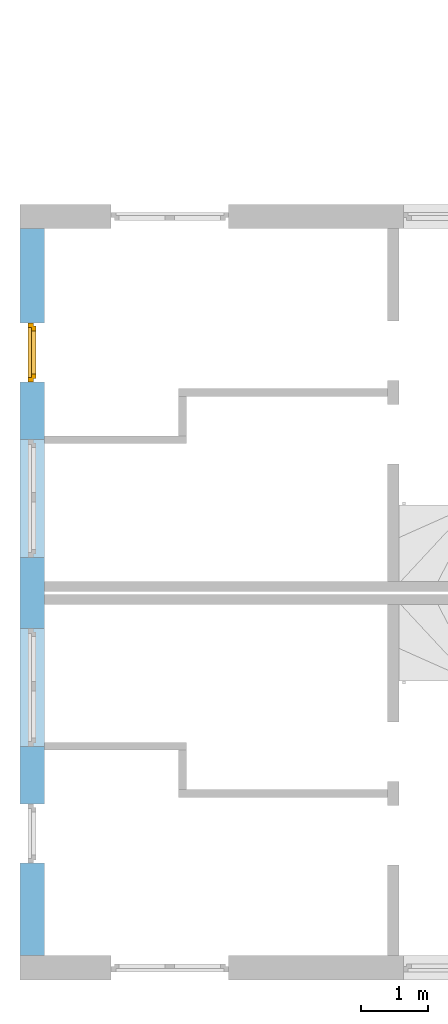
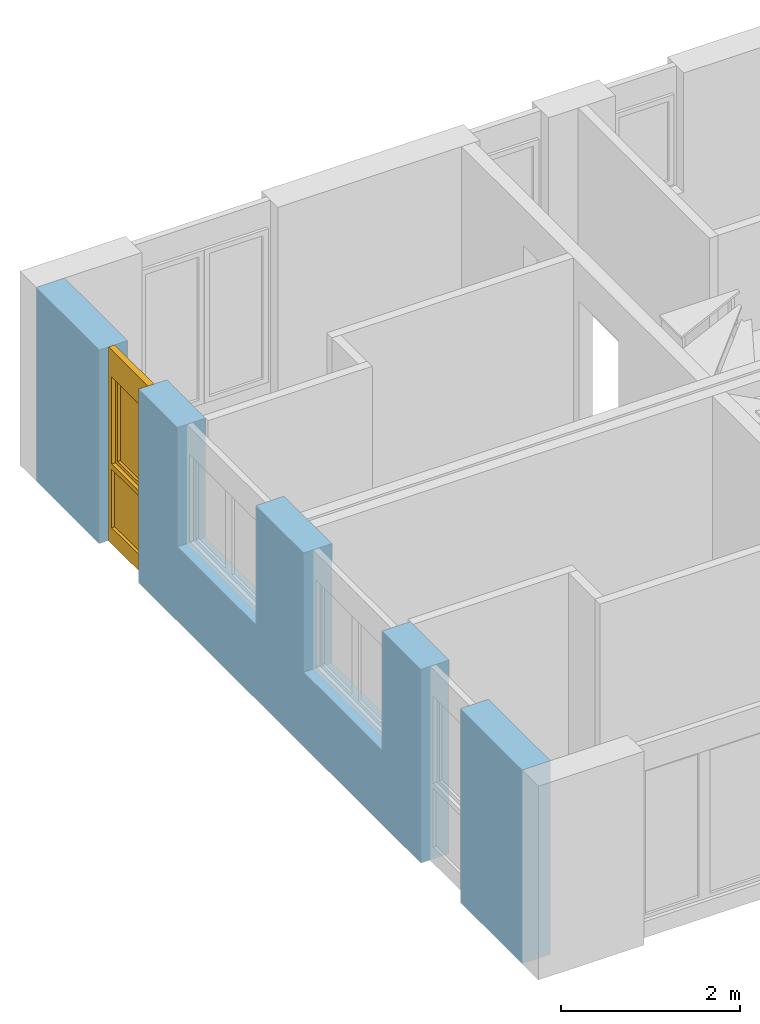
# One storey, part 9 of 42: 1 window, 4 openings, plus 1 element that does not belong to this part.
"""IFC2X3 building model written with IfcOpenShell, lengths in millimetres."""

from ifc_helpers import new_model, entity, si_unit, converted_unit, frame, frame_2d, origin, origin_with_axes, place, context, subcontext, project, spatial, rectangle, extrude, faceted_brep, material, layer, layer_set, layer_usage, type_object, element, fill, save


model = new_model("IFC2X3")

# Units and contexts
model_context = context("Model", 3, precision=1e-05, world=origin())
body_context = subcontext(model_context, "Body", "Model", "MODEL_VIEW")
ifc_project = project(units=[si_unit("LENGTHUNIT", "METRE", prefix="MILLI"), converted_unit("PLANEANGLEUNIT", "DEGREE", entity("IfcPlaneAngleMeasure", 0.0174532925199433), si_unit("PLANEANGLEUNIT", "RADIAN"), dimensions=[0, 0, 0, 0, 0, 0, 0]), si_unit("AREAUNIT", "SQUARE_METRE"), si_unit("VOLUMEUNIT", "CUBIC_METRE")], contexts=[model_context])

# Building, storey
building_placement = place(None, origin())
building = spatial("IfcBuilding", under=ifc_project, at=building_placement, Name="Gebäude", CompositionType="ELEMENT")
storey_placement = place(building_placement, frame((0.0, 0.0, 2730.0), z_axis=(0.0, 0.0, 1.0), x_axis=(1.0, 0.0, 0.0)))
storey = spatial("IfcBuildingStorey", under=building, at=storey_placement, Name="OG.- Grundriss", CompositionType="ELEMENT", Elevation=2730.0)

# Wall, openings, window
ifc_material_1 = material(Name="Poroton")
ifc_layer = layer(ifc_material_1, 365.0)
ifc_layer_set = layer_set([ifc_layer])
ifc_layer_usage = layer_usage(ifc_layer_set, "AXIS2", "POSITIVE", 0.0)
wall_placement = place(storey_placement, frame((130992.7928067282, 136524.8877324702, 0.0), z_axis=(0.0, 0.0, 1.0), x_axis=(1.336877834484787e-14, -1.0, 0.0)))
wall = element("IfcWallStandardCase", 1, at=wall_placement, inside=storey, material=ifc_layer_usage, Name="<Unnamed Element>", context=body_context, shape_type="SweptSolid", body=[
    extrude(rectangle(XDim=10884.99999999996, YDim=365.0, at=frame_2d((5442.499999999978, 182.5), x_axis=(1.0, 0.0))), origin_with_axes(), (0.0, 0.0, 1.0), 2650.0),
])
opening_1_placement = place(wall_placement, frame((5989.999999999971, 1.455191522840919e-13, 1020.0), z_axis=(0.0, 1.0, 0.0), x_axis=(0.0, 0.0, 1.0)))
element("IfcOpeningElement", 2, at=opening_1_placement, cuts=wall, Name="Fensteröffnung", ObjectType="Opening", context=body_context, shape_type="SweptSolid", body=[
    extrude(rectangle(XDim=1630.0, YDim=1760.0, at=frame_2d((815.0, 880.0), x_axis=(1.0, 0.0))), origin_with_axes(), (0.0, 0.0, 1.0), 365.0000000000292),
])
opening_2_placement = place(wall_placement, frame((8614.99999999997, -8.949427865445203e-12, 0.0), z_axis=(0.0, 1.0, 0.0), x_axis=(0.0, 0.0, 1.0)))
element("IfcOpeningElement", 3, at=opening_2_placement, cuts=wall, Name="Fensteröffnung", ObjectType="Opening", context=body_context, shape_type="SweptSolid", body=[
    extrude(rectangle(XDim=2650.0, YDim=885.0, at=frame_2d((1325.0, 442.5), x_axis=(1.0, 0.0))), origin_with_axes(), (0.0, 0.0, 1.0), 364.9999999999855),
])
opening_3_placement = place(wall_placement, frame((3159.987487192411, -1.688003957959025e-11, 1020.0), z_axis=(0.0, 1.0, 0.0), x_axis=(0.0, 0.0, 1.0)))
element("IfcOpeningElement", 4, at=opening_3_placement, cuts=wall, Name="Fensteröffnung", ObjectType="Opening", context=body_context, shape_type="SweptSolid", body=[
    extrude(rectangle(XDim=1630.0, YDim=1760.0, at=frame_2d((815.0, 880.0), x_axis=(1.0, 0.0))), origin_with_axes(), (0.0, 0.0, 1.0), 365.0),
])
opening_4_placement = place(wall_placement, frame((1409.987487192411, -5.966103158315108e-12, 0.0), z_axis=(0.0, 1.0, 0.0), x_axis=(0.0, 0.0, 1.0)))
opening_4 = element("IfcOpeningElement", 5, at=opening_4_placement, cuts=wall, Name="Fensteröffnung", ObjectType="Opening", context=body_context, shape_type="SweptSolid", body=[
    extrude(rectangle(XDim=2650.0, YDim=885.0, at=frame_2d((1325.0, 442.5), x_axis=(1.0, 0.0))), origin_with_axes(), (0.0, 0.0, 1.0), 365.0),
])
ifc_material_2 = material()
window_style = type_object("IfcWindowStyle", Name="Fenster", ConstructionType="NOTDEFINED", OperationType="USERDEFINED", ParameterTakesPrecedence=False, Sizeable=False)
window_placement = place(opening_4_placement, frame((0.0, 0.0, 0.0), z_axis=(1.0, 0.0, 0.0), x_axis=(0.0, 1.0, 0.0)))
window = element("IfcWindow", 6, at=window_placement, inside=storey, type_object=window_style, material=ifc_material_2, Name="Fenster", OverallHeight=2650.0, OverallWidth=885.0, context=body_context, shape_type="Brep", body=[
    faceted_brep([(1.064603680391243e-12, 200.0000000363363, 2650.0), (1.064603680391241e-12, 200.0000000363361, -2.449293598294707e-15), (69.99999999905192, 200.0000000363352, -2.449293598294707e-15), (69.99999999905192, 200.0000000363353, 2650.0), (0.0, 120.0000000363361, 2.449293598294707e-15), (2.080227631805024e-27, 120.0000000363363, 2650.0), (69.99999999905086, 120.0000000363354, 2650.0), (69.99999999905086, 120.0000000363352, 2.449293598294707e-15), (1.064603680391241e-12, 200.0000000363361, -2.449293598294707e-15), (1.064603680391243e-12, 200.0000000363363, 2650.0), (2.080227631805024e-27, 120.0000000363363, 2650.0), (0.0, 120.0000000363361, 2.449293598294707e-15), (69.99999999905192, 200.0000000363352, -2.449293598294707e-15), (1.064603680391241e-12, 200.0000000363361, -2.449293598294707e-15), (0.0, 120.0000000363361, 2.449293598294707e-15), (69.99999999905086, 120.0000000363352, 2.449293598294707e-15), (69.99999999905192, 200.0000000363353, 2650.0), (69.99999999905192, 200.0000000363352, -2.449293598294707e-15), (69.99999999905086, 120.0000000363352, 2.449293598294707e-15), (69.99999999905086, 120.0000000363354, 2650.0), (1.064603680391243e-12, 200.0000000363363, 2650.0), (69.99999999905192, 200.0000000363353, 2650.0), (69.99999999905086, 120.0000000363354, 2650.0), (2.080227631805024e-27, 120.0000000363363, 2650.0)], [[[0, 1, 2, 3]], [[4, 5, 6, 7]], [[8, 9, 10, 11]], [[12, 13, 14, 15]], [[16, 17, 18, 19]], [[20, 21, 22, 23]]], orient=[[False], [False], [False], [False], [False], [False]]),
    faceted_brep([(815.0000000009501, 200.0000000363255, 2650.0), (815.0000000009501, 200.0000000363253, -2.449293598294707e-15), (885.0000000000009, 200.0000000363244, -2.449293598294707e-15), (885.0000000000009, 200.0000000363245, 2650.0), (815.0000000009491, 120.0000000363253, 2.449293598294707e-15), (815.0000000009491, 120.0000000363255, 2650.0), (884.9999999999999, 120.0000000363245, 2650.0), (884.9999999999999, 120.0000000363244, 2.449293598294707e-15), (815.0000000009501, 200.0000000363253, -2.449293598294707e-15), (815.0000000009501, 200.0000000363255, 2650.0), (815.0000000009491, 120.0000000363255, 2650.0), (815.0000000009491, 120.0000000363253, 2.449293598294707e-15), (885.0000000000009, 200.0000000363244, -2.449293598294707e-15), (815.0000000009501, 200.0000000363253, -2.449293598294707e-15), (815.0000000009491, 120.0000000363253, 2.449293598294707e-15), (884.9999999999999, 120.0000000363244, 2.449293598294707e-15), (885.0000000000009, 200.0000000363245, 2650.0), (885.0000000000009, 200.0000000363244, -2.449293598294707e-15), (884.9999999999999, 120.0000000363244, 2.449293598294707e-15), (884.9999999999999, 120.0000000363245, 2650.0), (815.0000000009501, 200.0000000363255, 2650.0), (885.0000000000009, 200.0000000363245, 2650.0), (884.9999999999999, 120.0000000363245, 2650.0), (815.0000000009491, 120.0000000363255, 2650.0)], [[[0, 1, 2, 3]], [[4, 5, 6, 7]], [[8, 9, 10, 11]], [[12, 13, 14, 15]], [[16, 17, 18, 19]], [[20, 21, 22, 23]]], orient=[[False], [False], [False], [False], [False], [False]]),
    faceted_brep([(69.99999999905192, 200.0000000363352, 220.0), (69.99999999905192, 200.0000000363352, -2.449293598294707e-15), (815.0000000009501, 200.0000000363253, -2.449293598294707e-15), (815.0000000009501, 200.0000000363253, 220.0), (69.99999999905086, 120.0000000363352, 2.449293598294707e-15), (69.99999999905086, 120.0000000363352, 220.0), (815.0000000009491, 120.0000000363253, 220.0), (815.0000000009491, 120.0000000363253, 2.449293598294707e-15), (69.99999999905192, 200.0000000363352, -2.449293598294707e-15), (69.99999999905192, 200.0000000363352, 220.0), (69.99999999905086, 120.0000000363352, 220.0), (69.99999999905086, 120.0000000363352, 2.449293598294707e-15), (815.0000000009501, 200.0000000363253, -2.449293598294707e-15), (69.99999999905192, 200.0000000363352, -2.449293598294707e-15), (69.99999999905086, 120.0000000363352, 2.449293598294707e-15), (815.0000000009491, 120.0000000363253, 2.449293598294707e-15), (815.0000000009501, 200.0000000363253, 220.0), (815.0000000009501, 200.0000000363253, -2.449293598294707e-15), (815.0000000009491, 120.0000000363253, 2.449293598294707e-15), (815.0000000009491, 120.0000000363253, 220.0), (69.99999999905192, 200.0000000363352, 220.0), (815.0000000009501, 200.0000000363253, 220.0), (815.0000000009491, 120.0000000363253, 220.0), (69.99999999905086, 120.0000000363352, 220.0)], [[[0, 1, 2, 3]], [[4, 5, 6, 7]], [[8, 9, 10, 11]], [[12, 13, 14, 15]], [[16, 17, 18, 19]], [[20, 21, 22, 23]]], orient=[[False], [False], [False], [False], [False], [False]]),
    faceted_brep([(69.99999999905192, 200.0000000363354, 2650.0), (69.99999999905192, 200.0000000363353, 2280.0), (815.0000000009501, 200.0000000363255, 2280.0), (815.0000000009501, 200.0000000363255, 2650.0), (69.99999999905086, 120.0000000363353, 2280.0), (69.99999999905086, 120.0000000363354, 2650.0), (815.0000000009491, 120.0000000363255, 2650.0), (815.0000000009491, 120.0000000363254, 2280.0), (69.99999999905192, 200.0000000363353, 2280.0), (69.99999999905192, 200.0000000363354, 2650.0), (69.99999999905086, 120.0000000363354, 2650.0), (69.99999999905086, 120.0000000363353, 2280.0), (815.0000000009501, 200.0000000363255, 2280.0), (69.99999999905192, 200.0000000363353, 2280.0), (69.99999999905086, 120.0000000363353, 2280.0), (815.0000000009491, 120.0000000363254, 2280.0), (815.0000000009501, 200.0000000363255, 2650.0), (815.0000000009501, 200.0000000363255, 2280.0), (815.0000000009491, 120.0000000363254, 2280.0), (815.0000000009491, 120.0000000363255, 2650.0), (69.99999999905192, 200.0000000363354, 2650.0), (815.0000000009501, 200.0000000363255, 2650.0), (815.0000000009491, 120.0000000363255, 2650.0), (69.99999999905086, 120.0000000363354, 2650.0)], [[[0, 1, 2, 3]], [[4, 5, 6, 7]], [[8, 9, 10, 11]], [[12, 13, 14, 15]], [[16, 17, 18, 19]], [[20, 21, 22, 23]]], orient=[[False], [False], [False], [False], [False], [False]]),
    faceted_brep([(69.99999999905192, 200.0000000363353, 1090.0), (69.99999999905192, 200.0000000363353, 1020.0), (815.0000000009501, 200.0000000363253, 1020.0), (815.0000000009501, 200.0000000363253, 1090.0), (69.99999999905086, 120.0000000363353, 1020.0), (69.99999999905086, 120.0000000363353, 1090.0), (815.0000000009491, 120.0000000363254, 1090.0), (815.0000000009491, 120.0000000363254, 1020.0), (69.99999999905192, 200.0000000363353, 1020.0), (69.99999999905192, 200.0000000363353, 1090.0), (69.99999999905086, 120.0000000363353, 1090.0), (69.99999999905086, 120.0000000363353, 1020.0), (815.0000000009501, 200.0000000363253, 1020.0), (69.99999999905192, 200.0000000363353, 1020.0), (69.99999999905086, 120.0000000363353, 1020.0), (815.0000000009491, 120.0000000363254, 1020.0), (815.0000000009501, 200.0000000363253, 1090.0), (815.0000000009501, 200.0000000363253, 1020.0), (815.0000000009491, 120.0000000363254, 1020.0), (815.0000000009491, 120.0000000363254, 1090.0), (69.99999999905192, 200.0000000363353, 1090.0), (815.0000000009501, 200.0000000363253, 1090.0), (815.0000000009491, 120.0000000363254, 1090.0), (69.99999999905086, 120.0000000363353, 1090.0)], [[[0, 1, 2, 3]], [[4, 5, 6, 7]], [[8, 9, 10, 11]], [[12, 13, 14, 15]], [[16, 17, 18, 19]], [[20, 21, 22, 23]]], orient=[[False], [False], [False], [False], [False], [False]]),
    faceted_brep([(69.99999999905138, 160.0000000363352, 220.0), (815.0000000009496, 160.0000000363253, 220.0), (815.0000000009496, 160.0000000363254, 1020.0), (69.99999999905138, 160.0000000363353, 1020.0), (69.99999999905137, 159.0000000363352, 220.0), (69.99999999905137, 159.0000000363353, 1020.0), (815.0000000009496, 159.0000000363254, 1020.0), (815.0000000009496, 159.0000000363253, 220.0), (69.99999999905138, 160.0000000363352, 220.0), (69.99999999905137, 159.0000000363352, 220.0), (815.0000000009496, 159.0000000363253, 220.0), (815.0000000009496, 160.0000000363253, 220.0), (815.0000000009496, 160.0000000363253, 220.0), (815.0000000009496, 159.0000000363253, 220.0), (815.0000000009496, 159.0000000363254, 1020.0), (815.0000000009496, 160.0000000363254, 1020.0), (815.0000000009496, 160.0000000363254, 1020.0), (815.0000000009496, 159.0000000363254, 1020.0), (69.99999999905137, 159.0000000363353, 1020.0), (69.99999999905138, 160.0000000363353, 1020.0), (69.99999999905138, 160.0000000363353, 1020.0), (69.99999999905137, 159.0000000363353, 1020.0), (69.99999999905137, 159.0000000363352, 220.0), (69.99999999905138, 160.0000000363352, 220.0)], [[[0, 1, 2, 3]], [[4, 5, 6, 7]], [[8, 9, 10, 11]], [[12, 13, 14, 15]], [[16, 17, 18, 19]], [[20, 21, 22, 23]]], orient=[[False], [False], [False], [False], [False], [False]]),
    faceted_brep([(49.99999999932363, 240.0000000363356, 2300.0), (49.99999999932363, 240.0000000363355, 1070.0), (119.9999999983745, 240.0000000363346, 1070.0), (119.9999999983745, 240.0000000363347, 2300.0), (49.9999999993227, 170.0000000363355, 1070.0), (49.9999999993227, 170.0000000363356, 2300.0), (119.9999999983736, 170.0000000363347, 2300.0), (119.9999999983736, 170.0000000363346, 1070.0), (49.99999999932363, 240.0000000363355, 1070.0), (49.99999999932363, 240.0000000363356, 2300.0), (49.9999999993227, 170.0000000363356, 2300.0), (49.9999999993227, 170.0000000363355, 1070.0), (119.9999999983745, 240.0000000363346, 1070.0), (49.99999999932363, 240.0000000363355, 1070.0), (49.9999999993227, 170.0000000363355, 1070.0), (119.9999999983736, 170.0000000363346, 1070.0), (119.9999999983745, 240.0000000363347, 2300.0), (119.9999999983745, 240.0000000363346, 1070.0), (119.9999999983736, 170.0000000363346, 1070.0), (119.9999999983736, 170.0000000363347, 2300.0), (49.99999999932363, 240.0000000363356, 2300.0), (119.9999999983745, 240.0000000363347, 2300.0), (119.9999999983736, 170.0000000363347, 2300.0), (49.9999999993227, 170.0000000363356, 2300.0)], [[[0, 1, 2, 3]], [[4, 5, 6, 7]], [[8, 9, 10, 11]], [[12, 13, 14, 15]], [[16, 17, 18, 19]], [[20, 21, 22, 23]]], orient=[[False], [False], [False], [False], [False], [False]]),
    faceted_brep([(765.0000000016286, 240.0000000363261, 2300.0), (765.0000000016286, 240.000000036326, 1070.0), (835.0000000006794, 240.0000000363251, 1070.0), (835.0000000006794, 240.0000000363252, 2300.0), (765.0000000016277, 170.000000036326, 1070.0), (765.0000000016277, 170.0000000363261, 2300.0), (835.0000000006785, 170.0000000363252, 2300.0), (835.0000000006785, 170.0000000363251, 1070.0), (765.0000000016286, 240.000000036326, 1070.0), (765.0000000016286, 240.0000000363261, 2300.0), (765.0000000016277, 170.0000000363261, 2300.0), (765.0000000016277, 170.000000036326, 1070.0), (835.0000000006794, 240.0000000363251, 1070.0), (765.0000000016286, 240.000000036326, 1070.0), (765.0000000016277, 170.000000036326, 1070.0), (835.0000000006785, 170.0000000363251, 1070.0), (835.0000000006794, 240.0000000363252, 2300.0), (835.0000000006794, 240.0000000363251, 1070.0), (835.0000000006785, 170.0000000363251, 1070.0), (835.0000000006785, 170.0000000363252, 2300.0), (765.0000000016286, 240.0000000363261, 2300.0), (835.0000000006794, 240.0000000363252, 2300.0), (835.0000000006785, 170.0000000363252, 2300.0), (765.0000000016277, 170.0000000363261, 2300.0)], [[[0, 1, 2, 3]], [[4, 5, 6, 7]], [[8, 9, 10, 11]], [[12, 13, 14, 15]], [[16, 17, 18, 19]], [[20, 21, 22, 23]]], orient=[[False], [False], [False], [False], [False], [False]]),
    faceted_brep([(119.9999999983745, 240.0000000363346, 1140.0), (119.9999999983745, 240.0000000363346, 1070.0), (765.0000000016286, 240.000000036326, 1070.0), (765.0000000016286, 240.000000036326, 1140.0), (119.9999999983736, 170.0000000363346, 1070.0), (119.9999999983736, 170.0000000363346, 1140.0), (765.0000000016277, 170.000000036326, 1140.0), (765.0000000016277, 170.000000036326, 1070.0), (119.9999999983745, 240.0000000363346, 1070.0), (119.9999999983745, 240.0000000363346, 1140.0), (119.9999999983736, 170.0000000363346, 1140.0), (119.9999999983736, 170.0000000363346, 1070.0), (765.0000000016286, 240.000000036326, 1070.0), (119.9999999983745, 240.0000000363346, 1070.0), (119.9999999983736, 170.0000000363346, 1070.0), (765.0000000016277, 170.000000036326, 1070.0), (765.0000000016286, 240.000000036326, 1140.0), (765.0000000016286, 240.000000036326, 1070.0), (765.0000000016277, 170.000000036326, 1070.0), (765.0000000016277, 170.000000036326, 1140.0), (119.9999999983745, 240.0000000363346, 1140.0), (765.0000000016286, 240.000000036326, 1140.0), (765.0000000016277, 170.000000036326, 1140.0), (119.9999999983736, 170.0000000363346, 1140.0)], [[[0, 1, 2, 3]], [[4, 5, 6, 7]], [[8, 9, 10, 11]], [[12, 13, 14, 15]], [[16, 17, 18, 19]], [[20, 21, 22, 23]]], orient=[[False], [False], [False], [False], [False], [False]]),
    faceted_brep([(119.9999999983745, 240.0000000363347, 2300.0), (119.9999999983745, 240.0000000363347, 2230.0), (765.0000000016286, 240.0000000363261, 2230.0), (765.0000000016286, 240.0000000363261, 2300.0), (119.9999999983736, 170.0000000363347, 2230.0), (119.9999999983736, 170.0000000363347, 2300.0), (765.0000000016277, 170.0000000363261, 2300.0), (765.0000000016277, 170.0000000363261, 2230.0), (119.9999999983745, 240.0000000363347, 2230.0), (119.9999999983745, 240.0000000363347, 2300.0), (119.9999999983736, 170.0000000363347, 2300.0), (119.9999999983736, 170.0000000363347, 2230.0), (765.0000000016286, 240.0000000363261, 2230.0), (119.9999999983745, 240.0000000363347, 2230.0), (119.9999999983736, 170.0000000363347, 2230.0), (765.0000000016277, 170.0000000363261, 2230.0), (765.0000000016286, 240.0000000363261, 2300.0), (765.0000000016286, 240.0000000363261, 2230.0), (765.0000000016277, 170.0000000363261, 2230.0), (765.0000000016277, 170.0000000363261, 2300.0), (119.9999999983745, 240.0000000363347, 2300.0), (765.0000000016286, 240.0000000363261, 2300.0), (765.0000000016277, 170.0000000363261, 2300.0), (119.9999999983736, 170.0000000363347, 2300.0)], [[[0, 1, 2, 3]], [[4, 5, 6, 7]], [[8, 9, 10, 11]], [[12, 13, 14, 15]], [[16, 17, 18, 19]], [[20, 21, 22, 23]]], orient=[[False], [False], [False], [False], [False], [False]]),
    faceted_brep([(119.999999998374, 205.0000000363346, 1140.0), (765.0000000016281, 205.000000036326, 1140.0), (765.0000000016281, 205.0000000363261, 2230.0), (119.999999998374, 205.0000000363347, 2230.0), (119.999999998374, 204.0000000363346, 1140.0), (119.999999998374, 204.0000000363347, 2230.0), (765.0000000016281, 204.0000000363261, 2230.0), (765.0000000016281, 204.000000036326, 1140.0), (119.999999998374, 205.0000000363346, 1140.0), (119.999999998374, 204.0000000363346, 1140.0), (765.0000000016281, 204.000000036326, 1140.0), (765.0000000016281, 205.000000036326, 1140.0), (765.0000000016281, 205.000000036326, 1140.0), (765.0000000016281, 204.000000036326, 1140.0), (765.0000000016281, 204.0000000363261, 2230.0), (765.0000000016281, 205.0000000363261, 2230.0), (765.0000000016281, 205.0000000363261, 2230.0), (765.0000000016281, 204.0000000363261, 2230.0), (119.999999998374, 204.0000000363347, 2230.0), (119.999999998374, 205.0000000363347, 2230.0), (119.999999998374, 205.0000000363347, 2230.0), (119.999999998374, 204.0000000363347, 2230.0), (119.999999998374, 204.0000000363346, 1140.0), (119.999999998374, 205.0000000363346, 1140.0)], [[[0, 1, 2, 3]], [[4, 5, 6, 7]], [[8, 9, 10, 11]], [[12, 13, 14, 15]], [[16, 17, 18, 19]], [[20, 21, 22, 23]]], orient=[[False], [False], [False], [False], [False], [False]]),
])
fill(opening_4, window)

save(model, "model.ifc")
